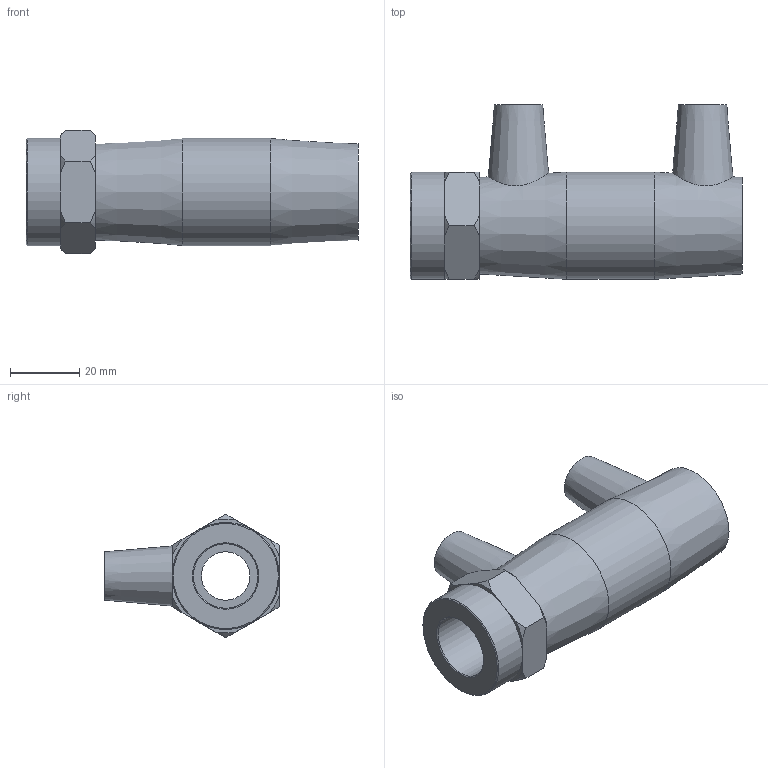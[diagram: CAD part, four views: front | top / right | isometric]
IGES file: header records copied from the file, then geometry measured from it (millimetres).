
Global section: file name: 493104020005.ipt; native system: Autodesk Inventor 2015; preprocessor: unknown; author: KIM; date: 20200202.122434; units: millimetre
Bounding box: 96 x 50.5 x 35.8 mm (x, y, z)
Volume: 52917.2 mm3; surface area: 18896.7 mm2
Topology: 1 solids, 1 shells, 54 faces, 130 edges, 86 vertices
Faces by surface type: plane 24, cone 17, revolution 9, cylinder 4
Full cylindrical faces by diameter (mm): 4 x2, 31 x2
